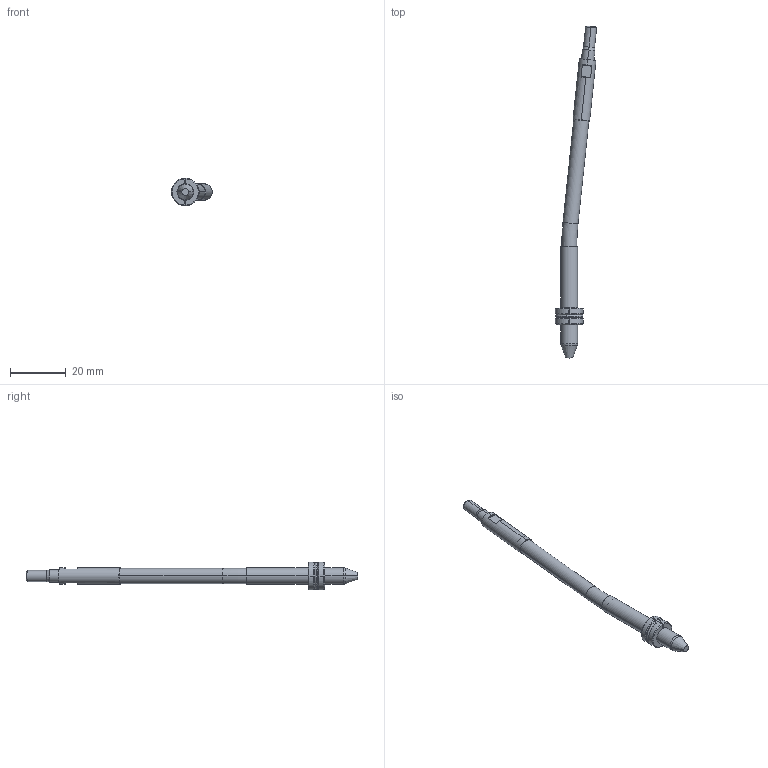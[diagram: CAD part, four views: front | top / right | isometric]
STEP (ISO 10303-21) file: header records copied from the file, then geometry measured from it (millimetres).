
FILE_DESCRIPTION (( 'STEP AP214' ), '1' );
FILE_NAME ('WP060030-EJE 6°.STEP', '2021-03-19T15:10:54', ( '' ), ( '' ), 'SwSTEP 2.0', 'SolidWorks 2019', '' );
FILE_SCHEMA (( 'AUTOMOTIVE_DESIGN' ));
Length unit declared in the file: millimetre
Products named in the file (6): WEB-008-JUNTA-JT7X1X9; WEB-001-9WP060030-1; WP060030-EJE 6°; WEB-007-9WP060030-F_WP060030-F-ON 6ø; WEB-002-9WP060030-2; WEB-006-9WP060030-6
Assembly tree (5 placements, depth 2):
  WP060030-EJE 6°
    WEB-001-9WP060030-1
    WEB-007-9WP060030-F_WP060030-F-ON 6ø
    WEB-002-9WP060030-2
    WEB-006-9WP060030-6
    WEB-008-JUNTA-JT7X1X9
Bounding box: 14.84 x 119.57 x 9.99 mm (x, y, z)
Volume: 3174 mm3; surface area: 2920.6 mm2
Topology: 6 solids, 6 shells, 112 faces, 262 edges, 164 vertices
Faces by surface type: cylinder 36, cone 28, plane 28, torus 20
Entity records: 3723 total; most frequent: CARTESIAN_POINT 714, DIRECTION 598, ORIENTED_EDGE 524, EDGE_CURVE 262, AXIS2_PLACEMENT_3D 256, VERTEX_POINT 164, CIRCLE 136, EDGE_LOOP 116
